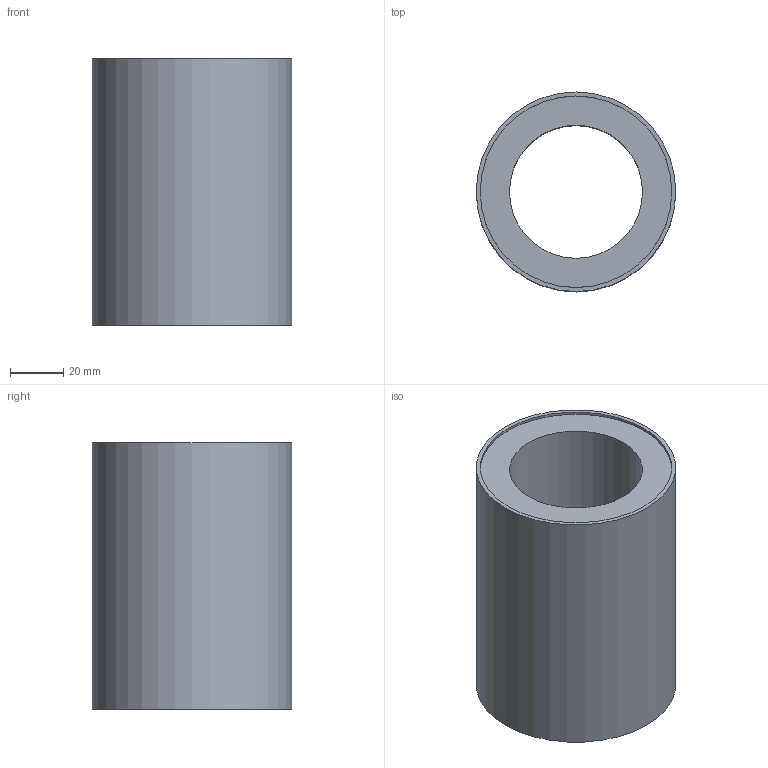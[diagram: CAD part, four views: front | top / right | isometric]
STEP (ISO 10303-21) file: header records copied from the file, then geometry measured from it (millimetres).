
FILE_DESCRIPTION(/* description */ (''),/* implementation_level */ '2;1');
FILE_NAME(/* name */ 'W:\WEBOVKY\Knecht\LME-UU\LME-50-UU\LME-50-UU.stp',/* time_stamp */ '2021-03-08T12:11:19+01:00',/* author */ ('mkorenek'),/* organization */ (''),/* preprocessor_version */ 'ST-DEVELOPER v18.1',/* originating_system */ 'Autodesk Inventor 2021',/* authorisation */ '');
FILE_SCHEMA (('AUTOMOTIVE_DESIGN { 1 0 10303 214 3 1 1 }'));
Length unit declared in the file: millimetre
Products named in the file (3): LME-50-UU; vnějšek pouzdra; vnitřek pouzdra
Assembly tree (2 placements, depth 2):
  LME-50-UU
    vnějšek pouzdra
    vnitřek pouzdra
Bounding box: 75 x 75 x 100 mm (x, y, z)
Volume: 241110.1 mm3; surface area: 88645.7 mm2
Topology: 2 solids, 2 shells, 8 faces, 16 edges, 12 vertices
Faces by surface type: plane 4, cylinder 4
Full cylindrical faces by diameter (mm): 50 x1, 71.99 x1, 72 x1, 75 x1
Entity records: 359 total; most frequent: DIRECTION 54, CARTESIAN_POINT 41, ORIENTED_EDGE 32, AXIS2_PLACEMENT_3D 25, EDGE_CURVE 16, EDGE_LOOP 12, CIRCLE 12, VERTEX_POINT 12
